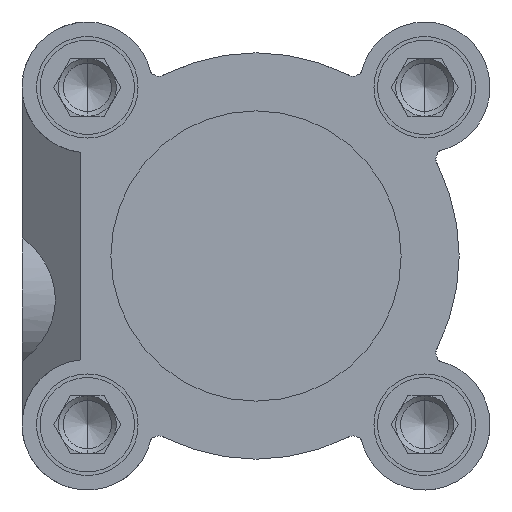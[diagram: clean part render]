
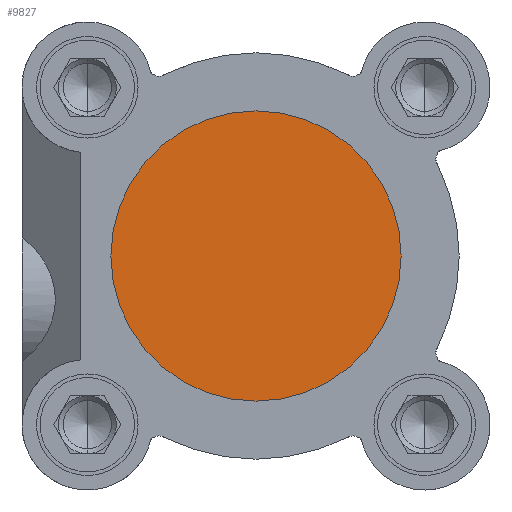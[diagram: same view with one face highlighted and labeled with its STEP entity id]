
A CAD part, left-side view. The second image highlights one B-rep face of the part: STEP entity #9827.
In plain terms, the highlighted planar face has unit normal (-1, 0, 0).
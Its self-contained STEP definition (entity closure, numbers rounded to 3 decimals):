
#407 = CARTESIAN_POINT ( 'NONE',  ( -160., 0., 20. ) ) ;
#472 = AXIS2_PLACEMENT_3D ( 'NONE', #5997, #6865, #6628 ) ;
#584 = DIRECTION ( 'NONE',  ( 0., 0., 1. ) ) ;
#1154 = EDGE_CURVE ( 'NONE', #4447, #1211, #8815, .T. ) ;
#1211 = VERTEX_POINT ( 'NONE', #3167 ) ;
#1466 = ORIENTED_EDGE ( 'NONE', *, *, #1154, .T. ) ;
#2294 = AXIS2_PLACEMENT_3D ( 'NONE', #2709, #8910, #11476 ) ;
#2709 = CARTESIAN_POINT ( 'NONE',  ( -160., 20., 0. ) ) ;
#2827 = PLANE ( 'NONE',  #2294 ) ;
#3167 = CARTESIAN_POINT ( 'NONE',  ( -160., 0., -20. ) ) ;
#3696 = FACE_OUTER_BOUND ( 'NONE', #10462, .T. ) ;
#4064 = DIRECTION ( 'NONE',  ( -1., 0., 0. ) ) ;
#4447 = VERTEX_POINT ( 'NONE', #407 ) ;
#5193 = ORIENTED_EDGE ( 'NONE', *, *, #11039, .T. ) ;
#5855 = CARTESIAN_POINT ( 'NONE',  ( -160., 0., 0. ) ) ;
#5997 = CARTESIAN_POINT ( 'NONE',  ( -160., 0., 0. ) ) ;
#6628 = DIRECTION ( 'NONE',  ( 0., 0., 1. ) ) ;
#6821 = CIRCLE ( 'NONE', #10727, 20. ) ;
#6865 = DIRECTION ( 'NONE',  ( -1., 0., 0. ) ) ;
#8815 = CIRCLE ( 'NONE', #472, 20. ) ;
#8910 = DIRECTION ( 'NONE',  ( 1., 0., 0. ) ) ;
#9827 = ADVANCED_FACE ( 'NONE', ( #3696 ), #2827, .F. ) ;
#10462 = EDGE_LOOP ( 'NONE', ( #1466, #5193 ) ) ;
#10727 = AXIS2_PLACEMENT_3D ( 'NONE', #5855, #4064, #584 ) ;
#11039 = EDGE_CURVE ( 'NONE', #1211, #4447, #6821, .T. ) ;
#11476 = DIRECTION ( 'NONE',  ( 0., 0., -1. ) ) ;
